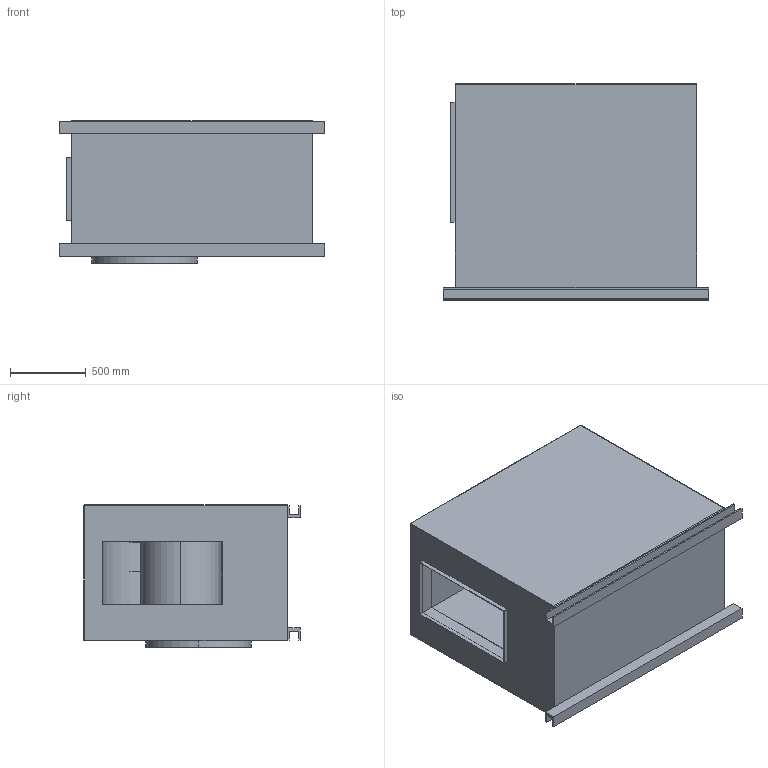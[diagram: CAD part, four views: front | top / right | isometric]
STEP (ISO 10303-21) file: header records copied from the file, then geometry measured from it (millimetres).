
FILE_DESCRIPTION(('STEP AP214'),'1');
FILE_NAME('fan_sptr000124_h.stp','2017-03-31T12:38:18',('TraceParts'),('TraceParts S.A.'),'Spatial InterOp 3D',' ',' ');
FILE_SCHEMA(('automotive_design'));
Length unit declared in the file: millimetre
Products named in the file (1): fan_sptr000124_h
Bounding box: 1760 x 1430 x 940 mm (x, y, z)
Volume: 736615345.4 mm3; surface area: 25911876.4 mm2
Topology: 1 solids, 1 shells, 168 faces, 446 edges, 276 vertices
Faces by surface type: plane 105, cylinder 51, sphere 8, torus 4
Entity records: 6518 total; most frequent: DIRECTION 924, CARTESIAN_POINT 883, ORIENTED_EDGE 876, EDGE_CURVE 438, AXIS2_PLACEMENT_3D 317, LINE 290, VECTOR 290, VERTEX_POINT 276
